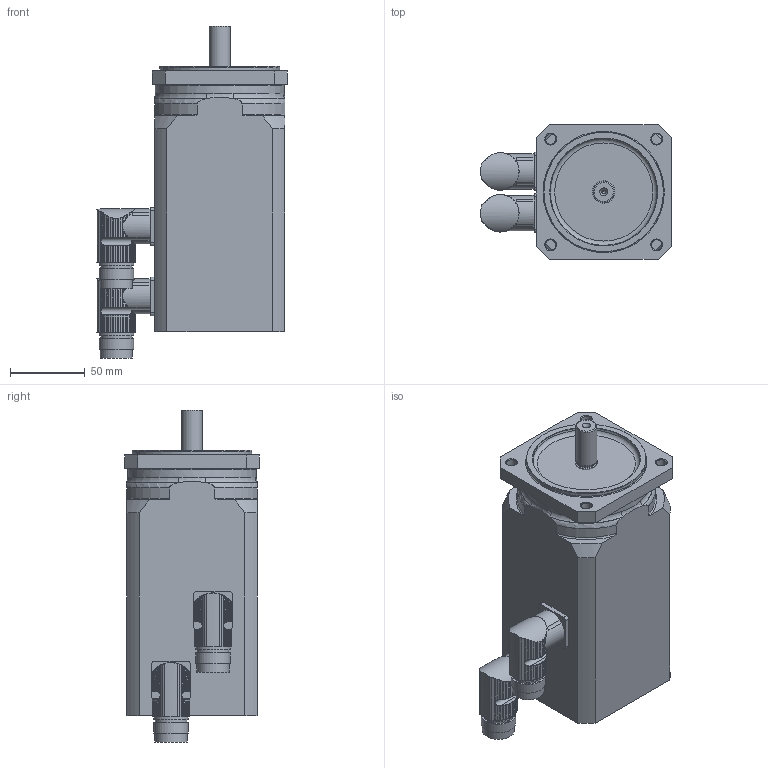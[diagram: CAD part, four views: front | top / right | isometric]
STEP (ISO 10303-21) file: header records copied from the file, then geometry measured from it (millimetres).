
FILE_DESCRIPTION(/* description */ (''),/* implementation_level */ '2;1');
FILE_NAME(/* name */ 'MR 7432-Ux-Nxxx-G##-A0D-M0',/* time_stamp */ '2007-07-13T09:50:00+01:00',/* author */ (''),/* organization */ ('ESR Pollmeier GmbH'),/* preprocessor_version */ 'ST-DEVELOPER v8',/* originating_system */ 'UNIGRAPHICS SOLUTIONS - UNIGRAPHICS 18.0',/* authorisation */ '');
FILE_SCHEMA (('AUTOMOTIVE_DESIGN { 1 2 10303 214 0 1 1 1 }'));
Length unit declared in the file: millimetre
Products named in the file (3): Winkelflanschdose_0; Rotor_SY3_0; MR7432-Ux-Nxxx-G##-A0D-M0_0
Assembly tree (3 placements, depth 2):
  MR7432-Ux-Nxxx-G##-A0D-M0_0
    Rotor_SY3_0
    Winkelflanschdose_0  x2
Bounding box: 126.99 x 90 x 221.65 mm (x, y, z)
Volume: 1338624.8 mm3; surface area: 92921.4 mm2
Topology: 4 solids, 4 shells, 409 faces, 1140 edges, 755 vertices
Faces by surface type: cylinder 307, plane 64, cone 17, torus 17, bspline 4
Full cylindrical faces by diameter (mm): 2.5 x1, 7 x4, 13.52 x1, 14 x1, 15 x1, 16 x2, 21 x2, 21.5 x2, 23 x4, 72 x1, 80 x1, 86 x1
Entity records: 8293 total; most frequent: CARTESIAN_POINT 2271, ORIENTED_EDGE 1262, DIRECTION 1180, EDGE_CURVE 631, AXIS2_PLACEMENT_3D 484, VERTEX_POINT 433, EDGE_LOOP 293, ADVANCED_FACE 245
